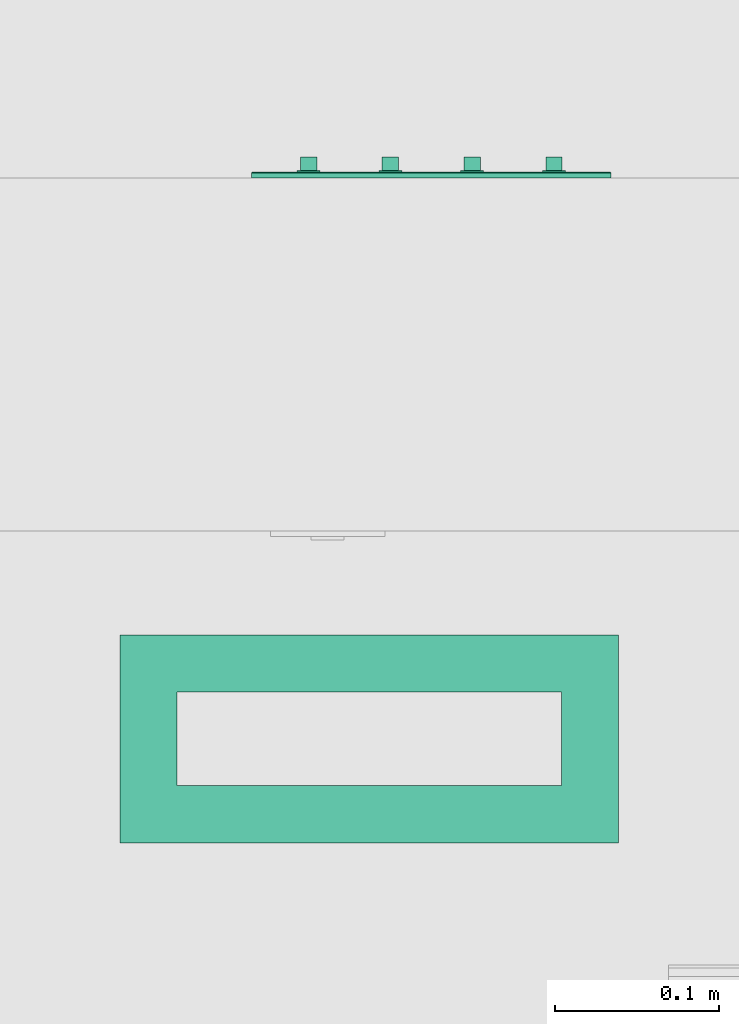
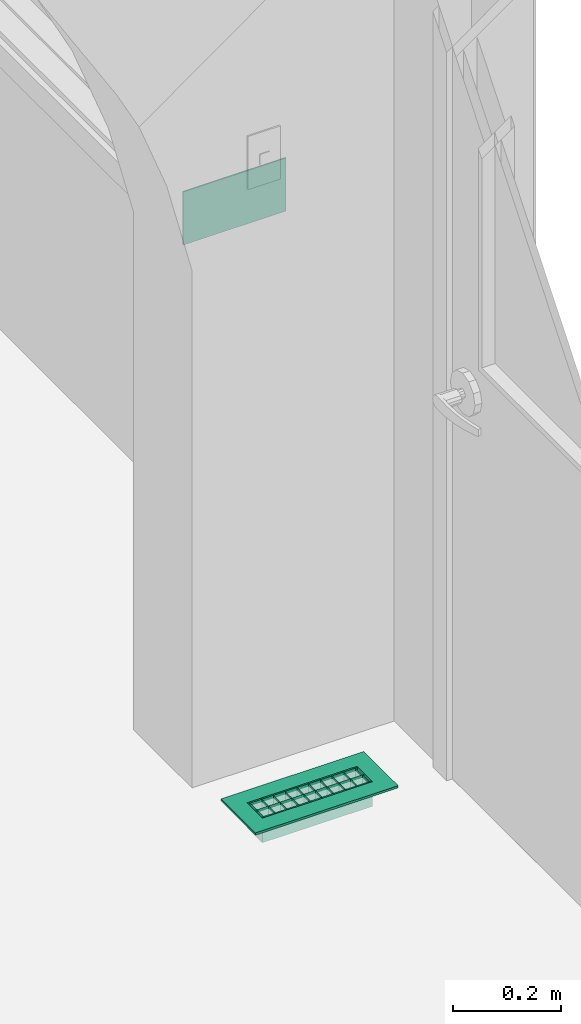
# One storey, part 33 of 103: 1 distribution flow element, 1 flow controller.
"""IFC2X3 building model written with IfcOpenShell, lengths in inches."""

from ifc_helpers import new_model, entity, si_unit, converted_unit, derived_unit, money_unit, direction, frame, origin_with_axes, place, context, subcontext, project, spatial, open_shell, faceted_brep, surface_model, source, transform, mapped, type_object, element, save


model = new_model("IFC2X3")

# Units and contexts
model_context = context("Model", 3, precision=0.00039370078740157, world=origin_with_axes(), true_north=direction((0.0, 1.0)))
plan_context = context("Plan", 3, precision=0.00039370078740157, world=origin_with_axes(), true_north=direction((0.0, 1.0)))
body_context = subcontext(model_context, "Body", "Model", "MODEL_VIEW")
ifc_project = project(units=[converted_unit("LENGTHUNIT", "INCH", entity("IfcPositiveLengthMeasure", 0.0254), si_unit("LENGTHUNIT", "METRE"), dimensions=[1, 0, 0, 0, 0, 0, 0]), converted_unit("AREAUNIT", "SQUARE_FOOT", entity("IfcPositiveLengthMeasure", 0.09290304), si_unit("AREAUNIT", "SQUARE_METRE"), dimensions=[2, 0, 0, 0, 0, 0, 0]), si_unit("PLANEANGLEUNIT", "RADIAN"), si_unit("SOLIDANGLEUNIT", "STERADIAN"), money_unit("USD"), converted_unit("TIMEUNIT", "Year", entity("IfcTimeMeasure", 31557600.0), si_unit("TIMEUNIT", "SECOND"), dimensions=[0, 0, 1, 0, 0, 0, 0]), si_unit("MASSUNIT", "GRAM", prefix="KILO"), si_unit("THERMODYNAMICTEMPERATUREUNIT", "DEGREE_CELSIUS"), si_unit("LUMINOUSINTENSITYUNIT", "LUMEN"), si_unit("ENERGYUNIT", "JOULE", prefix="MEGA"), derived_unit("SPECIFICHEATCAPACITYUNIT", [(si_unit("ENERGYUNIT", "JOULE"), 1), (si_unit("MASSUNIT", "GRAM", prefix="KILO"), -1), (si_unit("THERMODYNAMICTEMPERATUREUNIT", "KELVIN"), -1)])], contexts=[model_context, plan_context])

# Site, building, storey
site_placement = place(None, origin_with_axes())
site = spatial("IfcSite", under=ifc_project, at=site_placement, Name="Site", CompositionType="ELEMENT")
building_placement = place(site_placement, origin_with_axes())
building = spatial("IfcBuilding", under=site, at=building_placement, Name="Building", CompositionType="ELEMENT")
storey_placement = place(building_placement, frame((0.0, 0.0, 127.9999999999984), z_axis=(0.0, 0.0, 1.0), x_axis=(1.0, 0.0, 0.0)))
storey = spatial("IfcBuildingStorey", under=building, at=storey_placement, Name="Second Floor", CompositionType="ELEMENT", Elevation=128.0)

# Flow controller
switching_device_type = type_object("IfcSwitchingDeviceType", Name="Switch US", PredefinedType="NOTDEFINED")
shared_shape_1 = source(origin_with_axes(), body_context, "Body", "Brep", [
    faceted_brep([(3.14960629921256, 0.0, -0.5905511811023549), (2.755905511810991, 0.0, -0.5905511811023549), (2.755905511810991, 0.0, 0.5905511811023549), (3.14960629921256, 0.0, 0.5905511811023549), (3.14960629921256, -0.1033464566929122, -0.5905511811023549), (2.755905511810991, -0.1033464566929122, -0.5905511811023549), (2.755905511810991, -0.1033464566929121, 0.157480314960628), (2.755905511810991, -0.4970472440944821, 0.1574803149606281), (2.755905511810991, -0.4970472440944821, 0.472440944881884), (2.755905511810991, -0.1033464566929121, 0.472440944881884), (2.755905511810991, -0.1033464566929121, 0.5905511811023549), (3.14960629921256, -0.103346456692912, 0.5905511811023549), (3.14960629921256, -0.1033464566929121, 0.472440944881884), (3.14960629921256, -0.4970472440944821, 0.472440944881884), (3.14960629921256, -0.4970472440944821, 0.1574803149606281), (3.14960629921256, -0.1033464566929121, 0.157480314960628)], [[[0, 1, 2, 3]], [[4, 5, 1, 0]], [[1, 5, 6, 7, 8, 9, 10, 2]], [[3, 2, 10, 11]], [[0, 3, 11, 12, 13, 14, 15, 4]], [[15, 6, 5, 4]], [[14, 7, 6, 15]], [[13, 8, 7, 14]], [[12, 9, 8, 13]], [[11, 10, 9, 12]]]),
    faceted_brep([(3.228346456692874, 0.0, -0.669291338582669), (3.228346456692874, -0.1771653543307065, -0.669291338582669), (2.677165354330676, -0.1771653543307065, -0.669291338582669), (2.677165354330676, 0.0, -0.669291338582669), (3.228346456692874, 0.0, 0.669291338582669), (3.228346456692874, -0.1771653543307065, 0.669291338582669), (2.677165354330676, -0.1771653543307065, 0.669291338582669), (3.14960629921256, -0.1771653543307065, -0.5905511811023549), (2.75590551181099, -0.1771653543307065, -0.5905511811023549), (2.75590551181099, -0.1771653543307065, 0.5905511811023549), (3.14960629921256, -0.1771653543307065, 0.5905511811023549), (2.677165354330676, 0.0, 0.669291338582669), (3.14960629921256, 0.0, -0.5905511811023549), (3.14960629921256, 0.0, 0.5905511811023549), (2.75590551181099, 0.0, 0.5905511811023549), (2.75590551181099, 0.0, -0.5905511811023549)], [[[0, 1, 2, 3]], [[4, 5, 1, 0]], [[1, 5, 6, 2], [7, 8, 9, 10]], [[3, 2, 6, 11]], [[0, 3, 11, 4], [12, 13, 14, 15]], [[11, 6, 5, 4]], [[15, 8, 7, 12]], [[14, 9, 8, 15]], [[13, 10, 9, 14]], [[12, 7, 10, 13]]]),
    faceted_brep([(1.968503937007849, -0.103346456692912, 2.362204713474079), (4.330708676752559, -0.103346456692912, 2.362204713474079), (4.330708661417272, 0.0, 2.36220472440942), (1.968503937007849, 0.0, 2.36220472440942), (1.968503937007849, -0.1122624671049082, 2.361030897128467), (4.329534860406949, -0.1122624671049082, 2.361030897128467), (4.330708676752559, -0.1033464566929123, -2.36220473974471), (4.330708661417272, 0.0, -2.36220472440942), (1.968503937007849, 0.0, -2.36220472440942), (2.677165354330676, 0.0, -0.669291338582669), (3.228346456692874, 0.0, -0.669291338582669), (3.228346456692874, 0.0, 0.669291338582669), (2.677165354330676, 0.0, 0.669291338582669), (1.968503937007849, -0.1033464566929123, -2.36220473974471), (1.968503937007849, -0.1122624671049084, -2.361030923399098), (1.968503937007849, -0.1277054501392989, -2.352114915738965), (1.968503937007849, -0.1366214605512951, -2.336671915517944), (1.968503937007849, -0.1377952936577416, -2.327755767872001), (1.968503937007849, -0.1377952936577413, 2.32775574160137), (1.968503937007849, -0.1366214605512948, 2.336671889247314), (1.968503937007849, -0.1277054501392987, 2.352114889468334), (4.320618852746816, -0.1277054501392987, 2.352114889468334), (4.329534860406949, -0.1122624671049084, -2.361030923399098), (2.677165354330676, -0.1377952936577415, -0.669291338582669), (3.228346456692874, -0.1377952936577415, -0.669291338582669), (3.228346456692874, -0.1377952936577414, 0.669291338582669), (2.677165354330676, -0.1377952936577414, 0.669291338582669), (4.320618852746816, -0.1277054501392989, -2.352114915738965), (4.305175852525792, -0.1366214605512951, -2.336671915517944), (4.296259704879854, -0.1377952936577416, -2.327755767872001), (4.296259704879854, -0.1377952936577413, 2.32775574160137), (4.305175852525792, -0.1366214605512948, 2.336671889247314)], [[[0, 1, 2, 3]], [[4, 5, 1, 0]], [[6, 7, 2, 1]], [[3, 2, 7, 8], [9, 10, 11, 12]], [[8, 13, 14, 15, 16, 17, 18, 19, 20, 4, 0, 3]], [[20, 21, 5, 4]], [[22, 6, 1, 5]], [[8, 7, 6, 13]], [[10, 9, 23, 24]], [[11, 10, 24, 25]], [[12, 11, 25, 26]], [[9, 12, 26, 23]], [[13, 6, 22, 14]], [[14, 22, 27, 15]], [[15, 27, 28, 16]], [[16, 28, 29, 17]], [[17, 29, 30, 18], [25, 24, 23, 26]], [[18, 30, 31, 19]], [[19, 31, 21, 20]], [[27, 22, 5, 21]], [[28, 27, 21, 31]], [[29, 28, 31, 30]]]),
    faceted_brep([(1.18110236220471, 0.0, -0.5905511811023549), (0.7874015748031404, 0.0, -0.5905511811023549), (0.7874015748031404, 0.0, 0.5905511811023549), (1.18110236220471, 0.0, 0.5905511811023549), (1.18110236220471, -0.1033464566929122, -0.5905511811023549), (0.7874015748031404, -0.1033464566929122, -0.5905511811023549), (0.7874015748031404, -0.1033464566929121, 0.157480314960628), (0.7874015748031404, -0.4970472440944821, 0.1574803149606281), (0.7874015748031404, -0.4970472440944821, 0.472440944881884), (0.7874015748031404, -0.1033464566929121, 0.472440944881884), (0.7874015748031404, -0.1033464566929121, 0.5905511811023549), (1.18110236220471, -0.103346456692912, 0.5905511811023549), (1.18110236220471, -0.1033464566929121, 0.472440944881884), (1.18110236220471, -0.4970472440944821, 0.472440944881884), (1.18110236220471, -0.4970472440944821, 0.1574803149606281), (1.18110236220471, -0.1033464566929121, 0.157480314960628)], [[[0, 1, 2, 3]], [[4, 5, 1, 0]], [[1, 5, 6, 7, 8, 9, 10, 2]], [[3, 2, 10, 11]], [[0, 3, 11, 12, 13, 14, 15, 4]], [[15, 6, 5, 4]], [[14, 7, 6, 15]], [[13, 8, 7, 14]], [[12, 9, 8, 13]], [[11, 10, 9, 12]]]),
    faceted_brep([(1.259842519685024, 0.0, -0.669291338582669), (1.259842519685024, -0.1771653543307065, -0.669291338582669), (0.7086614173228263, -0.1771653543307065, -0.669291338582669), (0.7086614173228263, 0.0, -0.669291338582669), (1.259842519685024, 0.0, 0.669291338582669), (1.259842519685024, -0.1771653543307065, 0.669291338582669), (0.7086614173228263, -0.1771653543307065, 0.669291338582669), (1.18110236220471, -0.1771653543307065, -0.5905511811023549), (0.7874015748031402, -0.1771653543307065, -0.5905511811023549), (0.7874015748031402, -0.1771653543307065, 0.5905511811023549), (1.18110236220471, -0.1771653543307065, 0.5905511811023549), (0.7086614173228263, 0.0, 0.669291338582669), (1.18110236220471, 0.0, -0.5905511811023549), (1.18110236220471, 0.0, 0.5905511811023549), (0.7874015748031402, 0.0, 0.5905511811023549), (0.7874015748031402, 0.0, -0.5905511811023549)], [[[0, 1, 2, 3]], [[4, 5, 1, 0]], [[1, 5, 6, 2], [7, 8, 9, 10]], [[3, 2, 6, 11]], [[0, 3, 11, 4], [12, 13, 14, 15]], [[11, 6, 5, 4]], [[15, 8, 7, 12]], [[14, 9, 8, 15]], [[13, 10, 9, 14]], [[12, 7, 10, 13]]]),
    faceted_brep([(1.968503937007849, 0.0, -2.36220472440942), (0.0, 0.0, -2.36220472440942), (0.0, 0.0, 2.36220472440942), (1.968503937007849, 0.0, 2.36220472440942), (0.7086614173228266, 0.0, 0.669291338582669), (0.7086614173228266, 0.0, -0.669291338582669), (1.259842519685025, 0.0, -0.669291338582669), (1.259842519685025, 0.0, 0.669291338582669), (1.968503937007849, -0.1033464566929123, -2.36220473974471), (0.0, -0.1033464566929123, -2.36220473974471), (0.0, -0.1277054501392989, -2.352114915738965), (0.0, -0.1366214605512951, -2.336671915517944), (0.0, -0.1377952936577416, -2.327755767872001), (0.0, -0.1377952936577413, 2.32775574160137), (0.0, -0.1366214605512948, 2.336671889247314), (0.0, -0.1277054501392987, 2.352114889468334), (0.0, -0.1122624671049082, 2.361030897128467), (0.0, -0.103346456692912, 2.362204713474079), (0.0, -0.1122624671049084, -2.361030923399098), (1.968503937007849, -0.103346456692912, 2.362204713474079), (1.968503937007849, -0.1122624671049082, 2.361030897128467), (1.968503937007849, -0.1277054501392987, 2.352114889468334), (1.968503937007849, -0.1366214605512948, 2.336671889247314), (1.968503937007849, -0.1377952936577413, 2.32775574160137), (1.968503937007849, -0.1377952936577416, -2.327755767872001), (1.968503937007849, -0.1366214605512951, -2.336671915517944), (1.968503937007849, -0.1277054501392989, -2.352114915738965), (1.968503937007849, -0.1122624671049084, -2.361030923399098), (0.7086614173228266, -0.1377952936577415, -0.669291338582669), (0.7086614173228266, -0.1377952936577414, 0.669291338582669), (1.259842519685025, -0.1377952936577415, -0.669291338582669), (1.259842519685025, -0.1377952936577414, 0.669291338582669)], [[[0, 1, 2, 3], [4, 5, 6, 7]], [[8, 9, 1, 0]], [[10, 11, 12, 13, 14, 15, 16, 17, 2, 1, 9, 18]], [[3, 2, 17, 19]], [[19, 20, 21, 22, 23, 24, 25, 26, 27, 8, 0, 3]], [[28, 5, 4, 29]], [[30, 6, 5, 28]], [[31, 7, 6, 30]], [[29, 4, 7, 31]], [[27, 18, 9, 8]], [[25, 11, 10, 26]], [[24, 12, 11, 25]], [[23, 13, 12, 24], [29, 31, 30, 28]], [[22, 14, 13, 23]], [[21, 15, 14, 22]], [[20, 16, 15, 21]], [[19, 17, 16, 20]], [[26, 10, 18, 27]]]),
    faceted_brep([(-0.7874015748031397, 0.0, -0.5905511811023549), (-1.18110236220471, 0.0, -0.5905511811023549), (-1.18110236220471, 0.0, 0.5905511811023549), (-0.7874015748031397, 0.0, 0.5905511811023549), (-0.7874015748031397, -0.1033464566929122, -0.5905511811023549), (-1.18110236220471, -0.1033464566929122, -0.5905511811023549), (-1.18110236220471, -0.1033464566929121, 0.157480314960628), (-1.18110236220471, -0.4970472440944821, 0.1574803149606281), (-1.18110236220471, -0.4970472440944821, 0.472440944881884), (-1.18110236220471, -0.1033464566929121, 0.472440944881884), (-1.18110236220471, -0.1033464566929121, 0.5905511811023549), (-0.7874015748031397, -0.103346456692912, 0.5905511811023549), (-0.7874015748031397, -0.1033464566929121, 0.472440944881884), (-0.7874015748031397, -0.4970472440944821, 0.472440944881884), (-0.7874015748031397, -0.4970472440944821, 0.1574803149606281), (-0.7874015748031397, -0.1033464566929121, 0.157480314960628)], [[[0, 1, 2, 3]], [[4, 5, 1, 0]], [[1, 5, 6, 7, 8, 9, 10, 2]], [[3, 2, 10, 11]], [[0, 3, 11, 12, 13, 14, 15, 4]], [[15, 6, 5, 4]], [[14, 7, 6, 15]], [[13, 8, 7, 14]], [[12, 9, 8, 13]], [[11, 10, 9, 12]]]),
    faceted_brep([(-0.7086614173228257, 0.0, -0.669291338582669), (-0.7086614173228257, -0.1771653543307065, -0.669291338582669), (-1.259842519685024, -0.1771653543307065, -0.669291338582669), (-1.259842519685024, 0.0, -0.669291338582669), (-0.7086614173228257, 0.0, 0.669291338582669), (-0.7086614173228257, -0.1771653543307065, 0.669291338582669), (-1.259842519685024, -0.1771653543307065, 0.669291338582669), (-0.7874015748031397, -0.1771653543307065, -0.5905511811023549), (-1.18110236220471, -0.1771653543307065, -0.5905511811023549), (-1.18110236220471, -0.1771653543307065, 0.5905511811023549), (-0.7874015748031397, -0.1771653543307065, 0.5905511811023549), (-1.259842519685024, 0.0, 0.669291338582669), (-0.7874015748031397, 0.0, -0.5905511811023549), (-0.7874015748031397, 0.0, 0.5905511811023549), (-1.18110236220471, 0.0, 0.5905511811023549), (-1.18110236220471, 0.0, -0.5905511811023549)], [[[0, 1, 2, 3]], [[4, 5, 1, 0]], [[1, 5, 6, 2], [7, 8, 9, 10]], [[3, 2, 6, 11]], [[0, 3, 11, 4], [12, 13, 14, 15]], [[11, 6, 5, 4]], [[15, 8, 7, 12]], [[14, 9, 8, 15]], [[13, 10, 9, 14]], [[12, 7, 10, 13]]]),
    faceted_brep([(0.0, 0.0, -2.36220472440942), (-1.968503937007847, 0.0, -2.36220472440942), (-1.968503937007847, 0.0, 2.36220472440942), (0.0, 0.0, 2.36220472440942), (-1.259842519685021, 0.0, 0.669291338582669), (-1.259842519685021, 0.0, -0.669291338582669), (-0.7086614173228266, 0.0, -0.669291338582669), (-0.7086614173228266, 0.0, 0.669291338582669), (0.0, -0.1033464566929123, -2.36220473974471), (-1.968503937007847, -0.1033464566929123, -2.36220473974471), (-1.968503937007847, -0.1277054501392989, -2.352114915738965), (-1.968503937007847, -0.1366214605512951, -2.336671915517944), (-1.968503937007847, -0.1377952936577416, -2.327755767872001), (-1.968503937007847, -0.1377952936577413, 2.32775574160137), (-1.968503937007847, -0.1366214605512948, 2.336671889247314), (-1.968503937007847, -0.1277054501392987, 2.352114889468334), (-1.968503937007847, -0.1122624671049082, 2.361030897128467), (-1.968503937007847, -0.103346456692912, 2.362204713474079), (-1.968503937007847, -0.1122624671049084, -2.361030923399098), (0.0, -0.103346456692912, 2.362204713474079), (0.0, -0.1122624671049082, 2.361030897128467), (0.0, -0.1277054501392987, 2.352114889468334), (0.0, -0.1366214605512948, 2.336671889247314), (0.0, -0.1377952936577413, 2.32775574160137), (0.0, -0.1377952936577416, -2.327755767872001), (0.0, -0.1366214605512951, -2.336671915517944), (0.0, -0.1277054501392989, -2.352114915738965), (0.0, -0.1122624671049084, -2.361030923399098), (-1.259842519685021, -0.1377952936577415, -0.669291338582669), (-1.259842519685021, -0.1377952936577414, 0.669291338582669), (-0.7086614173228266, -0.1377952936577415, -0.669291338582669), (-0.7086614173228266, -0.1377952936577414, 0.669291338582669)], [[[0, 1, 2, 3], [4, 5, 6, 7]], [[8, 9, 1, 0]], [[10, 11, 12, 13, 14, 15, 16, 17, 2, 1, 9, 18]], [[3, 2, 17, 19]], [[19, 20, 21, 22, 23, 24, 25, 26, 27, 8, 0, 3]], [[28, 5, 4, 29]], [[30, 6, 5, 28]], [[31, 7, 6, 30]], [[29, 4, 7, 31]], [[27, 18, 9, 8]], [[25, 11, 10, 26]], [[24, 12, 11, 25]], [[23, 13, 12, 24], [29, 31, 30, 28]], [[22, 14, 13, 23]], [[21, 15, 14, 22]], [[20, 16, 15, 21]], [[19, 17, 16, 20]], [[26, 10, 18, 27]]]),
    faceted_brep([(-2.755905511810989, 0.0, -0.5905511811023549), (-3.14960629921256, 0.0, -0.5905511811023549), (-3.14960629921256, 0.0, 0.5905511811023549), (-2.755905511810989, 0.0, 0.5905511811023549), (-2.755905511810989, -0.1033464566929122, -0.5905511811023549), (-3.14960629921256, -0.1033464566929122, -0.5905511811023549), (-3.14960629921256, -0.1033464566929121, 0.157480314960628), (-3.14960629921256, -0.4970472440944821, 0.1574803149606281), (-3.14960629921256, -0.4970472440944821, 0.472440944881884), (-3.14960629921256, -0.1033464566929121, 0.472440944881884), (-3.14960629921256, -0.1033464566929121, 0.5905511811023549), (-2.755905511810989, -0.103346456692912, 0.5905511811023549), (-2.755905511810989, -0.1033464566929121, 0.472440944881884), (-2.755905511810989, -0.4970472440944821, 0.472440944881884), (-2.755905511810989, -0.4970472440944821, 0.1574803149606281), (-2.755905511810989, -0.1033464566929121, 0.157480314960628)], [[[0, 1, 2, 3]], [[4, 5, 1, 0]], [[1, 5, 6, 7, 8, 9, 10, 2]], [[3, 2, 10, 11]], [[0, 3, 11, 12, 13, 14, 15, 4]], [[15, 6, 5, 4]], [[14, 7, 6, 15]], [[13, 8, 7, 14]], [[12, 9, 8, 13]], [[11, 10, 9, 12]]]),
    faceted_brep([(-2.677165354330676, 0.0, -0.669291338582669), (-2.677165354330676, -0.1771653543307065, -0.669291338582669), (-3.228346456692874, -0.1771653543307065, -0.669291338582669), (-3.228346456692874, 0.0, -0.669291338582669), (-2.677165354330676, 0.0, 0.669291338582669), (-2.677165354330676, -0.1771653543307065, 0.669291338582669), (-3.228346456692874, -0.1771653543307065, 0.669291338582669), (-2.75590551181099, -0.1771653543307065, -0.5905511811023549), (-3.14960629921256, -0.1771653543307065, -0.5905511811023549), (-3.14960629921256, -0.1771653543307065, 0.5905511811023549), (-2.75590551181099, -0.1771653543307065, 0.5905511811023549), (-3.228346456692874, 0.0, 0.669291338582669), (-2.75590551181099, 0.0, -0.5905511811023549), (-2.75590551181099, 0.0, 0.5905511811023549), (-3.14960629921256, 0.0, 0.5905511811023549), (-3.14960629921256, 0.0, -0.5905511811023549)], [[[0, 1, 2, 3]], [[4, 5, 1, 0]], [[1, 5, 6, 2], [7, 8, 9, 10]], [[3, 2, 6, 11]], [[0, 3, 11, 4], [12, 13, 14, 15]], [[11, 6, 5, 4]], [[15, 8, 7, 12]], [[14, 9, 8, 15]], [[13, 10, 9, 14]], [[12, 7, 10, 13]]]),
    faceted_brep([(-1.968503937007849, 0.0, -2.36220472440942), (-4.330708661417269, 0.0, -2.36220472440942), (-4.330708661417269, 0.0, 2.36220472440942), (-1.968503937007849, 0.0, 2.36220472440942), (-3.228346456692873, 0.0, -0.669291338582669), (-2.677165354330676, 0.0, -0.669291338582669), (-2.677165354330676, 0.0, 0.669291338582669), (-3.228346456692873, 0.0, 0.669291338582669), (-1.968503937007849, -0.1033464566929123, -2.36220473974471), (-4.330708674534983, -0.1033464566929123, -2.36220473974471), (-4.330708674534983, -0.103346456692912, 2.362204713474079), (-1.968503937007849, -0.103346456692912, 2.362204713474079), (-1.968503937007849, -0.1122624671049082, 2.361030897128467), (-1.968503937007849, -0.1277054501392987, 2.352114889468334), (-1.968503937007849, -0.1366214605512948, 2.336671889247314), (-1.968503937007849, -0.1377952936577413, 2.32775574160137), (-1.968503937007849, -0.1377952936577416, -2.327755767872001), (-1.968503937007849, -0.1366214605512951, -2.336671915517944), (-1.968503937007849, -0.1277054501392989, -2.352114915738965), (-1.968503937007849, -0.1122624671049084, -2.361030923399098), (-3.228346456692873, -0.1377952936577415, -0.669291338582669), (-2.677165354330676, -0.1377952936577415, -0.669291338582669), (-2.677165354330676, -0.1377952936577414, 0.669291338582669), (-3.228346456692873, -0.1377952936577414, 0.669291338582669), (-4.329534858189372, -0.1122624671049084, -2.361030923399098), (-4.329534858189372, -0.1122624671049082, 2.361030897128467), (-4.32061885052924, -0.1277054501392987, 2.352114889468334), (-4.30517585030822, -0.1366214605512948, 2.336671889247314), (-4.296259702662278, -0.1377952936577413, 2.32775574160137), (-4.296259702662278, -0.1377952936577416, -2.327755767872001), (-4.30517585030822, -0.1366214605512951, -2.336671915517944), (-4.32061885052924, -0.1277054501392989, -2.352114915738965)], [[[0, 1, 2, 3], [4, 5, 6, 7]], [[8, 9, 1, 0]], [[10, 2, 1, 9]], [[3, 2, 10, 11]], [[11, 12, 13, 14, 15, 16, 17, 18, 19, 8, 0, 3]], [[5, 4, 20, 21]], [[6, 5, 21, 22]], [[7, 6, 22, 23]], [[4, 7, 23, 20]], [[19, 24, 9, 8]], [[25, 10, 9, 24]], [[11, 10, 25, 12]], [[12, 25, 26, 13]], [[13, 26, 27, 14]], [[14, 27, 28, 15]], [[15, 28, 29, 16], [22, 21, 20, 23]], [[16, 29, 30, 17]], [[17, 30, 31, 18]], [[18, 31, 24, 19]], [[26, 25, 24, 31]], [[27, 26, 31, 30]], [[28, 27, 30, 29]]]),
])
flow_controller_placement = place(storey_placement, frame((412.9970944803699, 200.9999999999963, 43.99999999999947), z_axis=(0.0, 0.0, 1.0), x_axis=(-1.0, 0.0, 0.0)))
element("IfcFlowController", 1, at=flow_controller_placement, inside=storey, type_object=switching_device_type, Name="OBJ-09", context=body_context, shape_type="MappedRepresentation", body=[
    mapped(shared_shape_1, transform((0.0, 0.0, 0.0))),
])

# Distribution flow element
valve_type = type_object("IfcValveType", Name="Rect Floor Register", PredefinedType="NOTDEFINED")
shared_shape_2 = source(origin_with_axes(), body_context, "Body", "SurfaceModel", [
    faceted_brep([(6.002952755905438, 2.502952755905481, 0.0), (-6.002952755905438, 2.502952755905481, 0.0), (-6.002952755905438, 2.502952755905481, 0.196850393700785), (6.002952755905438, 2.502952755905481, 0.196850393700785), (6.002952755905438, -2.502952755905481, 0.0), (-6.002952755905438, -2.502952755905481, 0.0), (4.624999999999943, 1.124999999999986, 0.0), (-4.624999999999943, 1.124999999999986, 0.0), (-4.624999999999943, -1.124999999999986, 0.0), (4.624999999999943, -1.124999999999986, 0.0), (-6.002952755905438, -2.502952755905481, 0.196850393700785), (6.002952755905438, -2.502952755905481, 0.196850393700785), (4.624999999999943, 1.124999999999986, 0.196850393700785), (4.624999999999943, -1.124999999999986, 0.196850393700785), (-4.624999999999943, -1.124999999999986, 0.196850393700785), (-4.624999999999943, 1.124999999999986, 0.196850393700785)], [[[0, 1, 2, 3]], [[0, 4, 5, 1], [6, 7, 8, 9]], [[1, 5, 10, 2]], [[3, 2, 10, 11], [12, 13, 14, 15]], [[4, 0, 3, 11]], [[5, 4, 11, 10]], [[7, 6, 12, 15]], [[8, 7, 15, 14]], [[9, 8, 14, 13]], [[6, 9, 13, 12]]]),
    surface_model("IfcShellBasedSurfaceModel", [(-4.585629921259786, 0.984251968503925, -0.78740157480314), (4.585629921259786, 0.984251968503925, -0.78740157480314), (4.585629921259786, 0.984251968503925, 0.196850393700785), (-4.585629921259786, 0.984251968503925, 0.196850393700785)], [open_shell([[[0, 1, 2, 3]]])]),
    surface_model("IfcShellBasedSurfaceModel", [(-4.585629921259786, 0.0, -0.78740157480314), (4.585629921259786, 0.0, -0.78740157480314), (4.585629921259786, 0.0, 0.196850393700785), (-4.585629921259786, 0.0, 0.196850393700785)], [open_shell([[[0, 1, 2, 3]]])]),
    surface_model("IfcShellBasedSurfaceModel", [(-4.585629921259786, -0.984251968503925, -0.78740157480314), (4.585629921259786, -0.984251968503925, -0.78740157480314), (4.585629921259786, -0.984251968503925, 0.196850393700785), (-4.585629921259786, -0.984251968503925, 0.196850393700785)], [open_shell([[[0, 1, 2, 3]]])]),
    surface_model("IfcShellBasedSurfaceModel", [(4.429133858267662, -1.085629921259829, -0.78740157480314), (4.429133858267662, 1.085629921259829, -0.78740157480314), (4.429133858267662, 1.085629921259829, 0.196850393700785), (4.429133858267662, -1.085629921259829, 0.196850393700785)], [open_shell([[[0, 1, 2, 3]]])]),
    surface_model("IfcShellBasedSurfaceModel", [(3.444881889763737, -1.085629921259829, -0.78740157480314), (3.444881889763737, 1.085629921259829, -0.78740157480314), (3.444881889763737, 1.085629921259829, 0.196850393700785), (3.444881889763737, -1.085629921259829, 0.196850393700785)], [open_shell([[[0, 1, 2, 3]]])]),
    surface_model("IfcShellBasedSurfaceModel", [(2.460629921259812, -1.085629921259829, -0.78740157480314), (2.460629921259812, 1.085629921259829, -0.78740157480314), (2.460629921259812, 1.085629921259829, 0.196850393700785), (2.460629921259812, -1.085629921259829, 0.196850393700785)], [open_shell([[[0, 1, 2, 3]]])]),
    surface_model("IfcShellBasedSurfaceModel", [(1.476377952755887, -1.085629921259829, -0.78740157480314), (1.476377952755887, 1.085629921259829, -0.78740157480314), (1.476377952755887, 1.085629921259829, 0.196850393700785), (1.476377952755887, -1.085629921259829, 0.196850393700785)], [open_shell([[[0, 1, 2, 3]]])]),
    surface_model("IfcShellBasedSurfaceModel", [(0.4921259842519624, -1.085629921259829, -0.78740157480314), (0.4921259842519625, 1.085629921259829, -0.78740157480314), (0.4921259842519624, 1.085629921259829, 0.196850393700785), (0.4921259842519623, -1.085629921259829, 0.196850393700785)], [open_shell([[[0, 1, 2, 3]]])]),
    surface_model("IfcShellBasedSurfaceModel", [(-0.4921259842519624, -1.085629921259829, -0.78740157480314), (-0.4921259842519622, 1.085629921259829, -0.78740157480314), (-0.4921259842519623, 1.085629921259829, 0.196850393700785), (-0.4921259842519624, -1.085629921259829, 0.196850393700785)], [open_shell([[[0, 1, 2, 3]]])]),
    surface_model("IfcShellBasedSurfaceModel", [(-1.476377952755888, -1.085629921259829, -0.78740157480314), (-1.476377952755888, 1.085629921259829, -0.78740157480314), (-1.476377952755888, 1.085629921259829, 0.196850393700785), (-1.476377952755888, -1.085629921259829, 0.196850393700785)], [open_shell([[[0, 1, 2, 3]]])]),
    surface_model("IfcShellBasedSurfaceModel", [(-2.460629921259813, -1.085629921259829, -0.78740157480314), (-2.460629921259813, 1.085629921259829, -0.78740157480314), (-2.460629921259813, 1.085629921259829, 0.196850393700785), (-2.460629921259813, -1.085629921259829, 0.196850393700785)], [open_shell([[[0, 1, 2, 3]]])]),
    surface_model("IfcShellBasedSurfaceModel", [(-3.444881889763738, -1.085629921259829, -0.78740157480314), (-3.444881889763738, 1.085629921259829, -0.78740157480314), (-3.444881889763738, 1.085629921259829, 0.196850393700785), (-3.444881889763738, -1.085629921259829, 0.196850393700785)], [open_shell([[[0, 1, 2, 3]]])]),
    surface_model("IfcShellBasedSurfaceModel", [(-4.429133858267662, -1.085629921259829, -0.78740157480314), (-4.429133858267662, 1.085629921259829, -0.78740157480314), (-4.429133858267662, 1.085629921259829, 0.196850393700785), (-4.429133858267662, -1.085629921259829, 0.196850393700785)], [open_shell([[[0, 1, 2, 3]]])]),
    surface_model("IfcShellBasedSurfaceModel", [(-4.624999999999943, -1.124999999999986, 0.0), (-4.624999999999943, 1.124999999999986, 0.0), (-4.624999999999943, 1.124999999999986, -1.999999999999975), (-4.624999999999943, -1.124999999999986, -1.999999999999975), (4.624999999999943, 1.124999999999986, 0.0), (4.624999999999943, 1.124999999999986, -1.999999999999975), (4.624999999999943, -1.124999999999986, 0.0), (4.624999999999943, -1.124999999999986, -1.999999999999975)], [open_shell([[[0, 1, 2, 3]], [[1, 4, 5, 2]], [[6, 0, 3, 7]], [[4, 6, 7, 5]]])]),
])
distribution_flow_element_placement = place(storey_placement, frame((411.5026547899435, 187.4964320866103, 0.0), z_axis=(0.0, 0.0, 1.0), x_axis=(1.0, 0.0, 0.0)))
element("IfcDistributionFlowElement", 2, at=distribution_flow_element_placement, inside=storey, type_object=valve_type, Name="FU - 027", context=body_context, shape_type="MappedRepresentation", body=[
    mapped(shared_shape_2, transform((0.0, 0.0, 0.0))),
])

save(model, "model.ifc")
